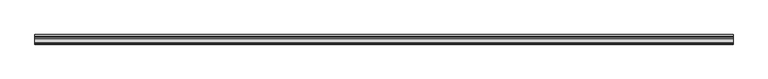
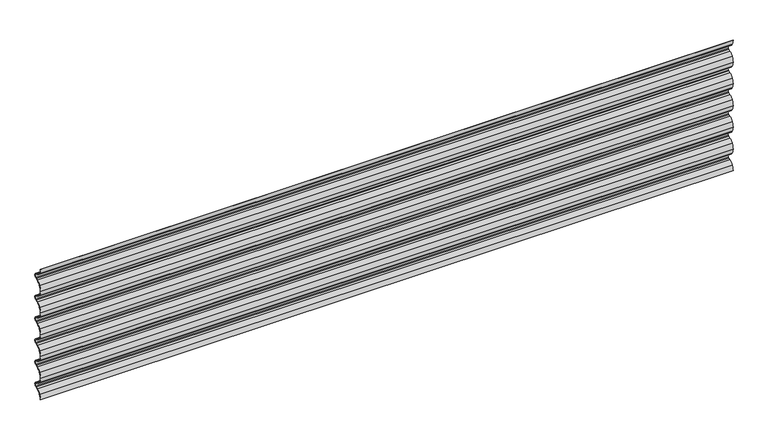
"""IFC4 building model written with IfcOpenShell, lengths in millimetres: plate geometry, Regolare Horizontal 534 : Regolare Horizontal 534."""

from ifc_helpers import new_model, si_unit, point, frame, frame_2d, origin, place, context, project, spatial, polyline, circle_curve, trimmed, segment, composite_curve, outline, extrude, source, transform, mapped, element, save


def plate_cc2e4fbd(model_context):
    return source(origin(), model_context, "Body", "SweptSolid", [
        extrude(outline(composite_curve([segment(trimmed(circle_curve(frame_2d((38.4503244, 0.0)), 37.4503244), [point((6.5021495, 19.5407501))], [point((1.0, 0.0))], True, "CARTESIAN"), True, "CONTINUOUS"), segment(polyline([(1.0, 0.0), (0.0, 0.0)]), True, "CONTINUOUS"), segment(trimmed(circle_curve(frame_2d((38.4503244, 0.0)), 38.4503244), [point((0.0, 0.0))], [point((5.6490681, 20.062528))], False, "CARTESIAN"), True, "CONTINUOUS"), segment(trimmed(circle_curve(frame_2d((32.6206681, 3.5656452)), 31.6166783), [point((5.6490681, 20.062528))], [point((20.878867, 32.9211295))], False, "CARTESIAN"), True, "CONTINUOUS"), segment(polyline([(20.878867, 32.9211295), (28.0423924, 35.7903512), (31.4771017, 37.4367049)]), True, "CONTINUOUS"), segment(trimmed(circle_curve(frame_2d((28.0791236, 44.5257445)), 7.8613445), [point((31.4771017, 37.4367049))], [point((35.9404682, 44.5257445))], True, "CARTESIAN"), True, "CONTINUOUS"), segment(trimmed(circle_curve(frame_2d((28.0791236, 44.5257445)), 7.8613445), [point((35.9404682, 44.5257445))], [point((31.4771017, 51.6147842))], True, "CARTESIAN"), True, "CONTINUOUS"), segment(polyline([(31.4771017, 51.6147842), (28.0423924, 53.2611379), (20.878867, 56.1303596)]), True, "CONTINUOUS"), segment(trimmed(circle_curve(frame_2d((32.6206681, 85.4858438)), 31.6166783), [point((20.878867, 56.1303596))], [point((5.6490681, 68.9889611))], False, "CARTESIAN"), True, "CONTINUOUS"), segment(trimmed(circle_curve(frame_2d((38.4503244, 89.0514891)), 38.4503244), [point((5.6490681, 68.9889611))], [point((0.0, 89.0514891))], False, "CARTESIAN"), True, "CONTINUOUS"), segment(trimmed(circle_curve(frame_2d((38.4503244, 89.0514891)), 38.4503244), [point((0.0, 89.0514891))], [point((5.6490681, 109.1140171))], False, "CARTESIAN"), True, "CONTINUOUS"), segment(trimmed(circle_curve(frame_2d((32.6206681, 92.6171343)), 31.6166783), [point((5.6490681, 109.1140171))], [point((20.878867, 121.9726185))], False, "CARTESIAN"), True, "CONTINUOUS"), segment(polyline([(20.878867, 121.9726185), (28.0423924, 124.8418403), (31.4771017, 126.488194)]), True, "CONTINUOUS"), segment(trimmed(circle_curve(frame_2d((28.0791236, 133.5772336)), 7.8613445), [point((31.4771017, 126.488194))], [point((31.4771017, 140.6662733))], True, "CARTESIAN"), True, "CONTINUOUS"), segment(polyline([(31.4771017, 140.6662733), (28.0423924, 142.312627), (20.878867, 145.1818487)]), True, "CONTINUOUS"), segment(trimmed(circle_curve(frame_2d((32.6206681, 174.5373329)), 31.6166783), [point((20.878867, 145.1818487))], [point((5.6490681, 158.0404502))], False, "CARTESIAN"), True, "CONTINUOUS"), segment(trimmed(circle_curve(frame_2d((38.4503244, 178.1029782)), 38.4503244), [point((5.6490681, 158.0404502))], [point((0.0, 178.1029782))], False, "CARTESIAN"), True, "CONTINUOUS"), segment(trimmed(circle_curve(frame_2d((38.4503244, 178.1029782)), 38.4503244), [point((0.0, 178.1029782))], [point((5.6490681, 198.1655062))], False, "CARTESIAN"), True, "CONTINUOUS"), segment(trimmed(circle_curve(frame_2d((32.6206681, 181.6686234)), 31.6166783), [point((5.6490681, 198.1655062))], [point((20.878867, 211.0241076))], False, "CARTESIAN"), True, "CONTINUOUS"), segment(polyline([(20.878867, 211.0241076), (28.0423924, 213.8933293), (31.4771017, 215.5396831)]), True, "CONTINUOUS"), segment(trimmed(circle_curve(frame_2d((28.0791236, 222.6287227)), 7.8613445), [point((31.4771017, 215.5396831))], [point((31.4771017, 229.7177623))], True, "CARTESIAN"), True, "CONTINUOUS"), segment(polyline([(31.4771017, 229.7177623), (28.0423924, 231.3641161), (20.878867, 234.2333378)]), True, "CONTINUOUS"), segment(trimmed(circle_curve(frame_2d((32.6206681, 263.588822)), 31.6166783), [point((20.878867, 234.2333378))], [point((5.6490681, 247.0919392))], False, "CARTESIAN"), True, "CONTINUOUS"), segment(trimmed(circle_curve(frame_2d((38.4503244, 267.1544672)), 38.4503244), [point((5.6490681, 247.0919392))], [point((0.0, 267.1544672))], False, "CARTESIAN"), True, "CONTINUOUS"), segment(trimmed(circle_curve(frame_2d((38.4503244, 267.1544672)), 38.4503244), [point((0.0, 267.1544672))], [point((5.6490681, 287.2169952))], False, "CARTESIAN"), True, "CONTINUOUS"), segment(trimmed(circle_curve(frame_2d((32.6206681, 270.7201125)), 31.6166783), [point((5.6490681, 287.2169952))], [point((20.878867, 300.0755967))], False, "CARTESIAN"), True, "CONTINUOUS"), segment(polyline([(20.878867, 300.0755967), (28.0423924, 302.9448184), (31.4771017, 304.5911721)]), True, "CONTINUOUS"), segment(trimmed(circle_curve(frame_2d((28.0791236, 311.6802118)), 7.8613445), [point((31.4771017, 304.5911721))], [point((31.4771017, 318.7692514))], True, "CARTESIAN"), True, "CONTINUOUS"), segment(polyline([(31.4771017, 318.7692514), (28.0423924, 320.4156051), (20.878867, 323.2848269)]), True, "CONTINUOUS"), segment(trimmed(circle_curve(frame_2d((32.6206681, 352.6403111)), 31.6166783), [point((20.878867, 323.2848269))], [point((5.6490681, 336.1434283))], False, "CARTESIAN"), True, "CONTINUOUS"), segment(trimmed(circle_curve(frame_2d((38.4503244, 356.2059563)), 38.4503244), [point((5.6490681, 336.1434283))], [point((0.0, 356.2059563))], False, "CARTESIAN"), True, "CONTINUOUS"), segment(trimmed(circle_curve(frame_2d((38.4503244, 356.2059563)), 38.4503244), [point((0.0, 356.2059563))], [point((5.6490681, 376.2684843))], False, "CARTESIAN"), True, "CONTINUOUS"), segment(trimmed(circle_curve(frame_2d((32.6206681, 359.7716016)), 31.6166783), [point((5.6490681, 376.2684843))], [point((20.878867, 389.1270858))], False, "CARTESIAN"), True, "CONTINUOUS"), segment(polyline([(20.878867, 389.1270858), (28.0423924, 391.9963075), (31.4771017, 393.6426612)]), True, "CONTINUOUS"), segment(trimmed(circle_curve(frame_2d((28.0791236, 400.7317009)), 7.8613445), [point((31.4771017, 393.6426612))], [point((31.4771017, 407.8207405))], True, "CARTESIAN"), True, "CONTINUOUS"), segment(polyline([(31.4771017, 407.8207405), (28.0423924, 409.4670942), (20.878867, 412.3363159)]), True, "CONTINUOUS"), segment(trimmed(circle_curve(frame_2d((32.6206681, 441.6918002)), 31.6166783), [point((20.878867, 412.3363159))], [point((5.6490681, 425.1949174))], False, "CARTESIAN"), True, "CONTINUOUS"), segment(trimmed(circle_curve(frame_2d((38.4503244, 445.2574454)), 38.4503244), [point((5.6490681, 425.1949174))], [point((0.0, 445.2574454))], False, "CARTESIAN"), True, "CONTINUOUS"), segment(trimmed(circle_curve(frame_2d((38.4503244, 445.2574454)), 38.4503244), [point((0.0, 445.2574454))], [point((5.6490681, 465.3199734))], False, "CARTESIAN"), True, "CONTINUOUS"), segment(trimmed(circle_curve(frame_2d((32.6206681, 448.8230907)), 31.6166783), [point((5.6490681, 465.3199734))], [point((20.878867, 478.1785749))], False, "CARTESIAN"), True, "CONTINUOUS"), segment(polyline([(20.878867, 478.1785749), (28.0423924, 481.0477966), (31.4771017, 482.6941503)]), True, "CONTINUOUS"), segment(trimmed(circle_curve(frame_2d((28.0791236, 489.7831899)), 7.8613445), [point((31.4771017, 482.6941503))], [point((31.4771017, 496.8722296))], True, "CARTESIAN"), True, "CONTINUOUS"), segment(polyline([(31.4771017, 496.8722296), (28.0423924, 498.5185833), (20.878867, 501.387805)]), True, "CONTINUOUS"), segment(trimmed(circle_curve(frame_2d((32.6206681, 530.7432892)), 31.6166783), [point((20.878867, 501.387805))], [point((5.6490681, 514.2464065))], False, "CARTESIAN"), True, "CONTINUOUS"), segment(trimmed(circle_curve(frame_2d((38.4503244, 534.3089345)), 38.4503244), [point((5.6490681, 514.2464065))], [point((0.0, 534.3089345))], False, "CARTESIAN"), True, "CONTINUOUS"), segment(polyline([(0.0, 534.3089345), (1.0, 534.3089345)]), True, "CONTINUOUS"), segment(trimmed(circle_curve(frame_2d((38.4503244, 534.3089345)), 37.4503244), [point((1.0, 534.3089345))], [point((6.5021495, 514.7681843))], True, "CARTESIAN"), True, "CONTINUOUS"), segment(trimmed(circle_curve(frame_2d((32.6206681, 530.7432892)), 30.6166783), [point((6.5021495, 514.7681843))], [point((21.2504634, 502.3161994))], True, "CARTESIAN"), True, "CONTINUOUS"), segment(polyline([(21.2504634, 502.3161994), (28.4448583, 499.4346135), (31.9093405, 497.7739888)]), True, "CONTINUOUS"), segment(trimmed(circle_curve(frame_2d((28.0791236, 489.7831899)), 8.8613445), [point((31.9093405, 497.7739888))], [point((31.9093405, 481.7923911))], False, "CARTESIAN"), True, "CONTINUOUS"), segment(polyline([(31.9093405, 481.7923911), (28.4448583, 480.1317664), (21.2504634, 477.2501805)]), True, "CONTINUOUS"), segment(trimmed(circle_curve(frame_2d((32.6206681, 448.8230907)), 30.6166783), [point((21.2504634, 477.2501805))], [point((6.5021495, 464.7981955))], True, "CARTESIAN"), True, "CONTINUOUS"), segment(trimmed(circle_curve(frame_2d((38.4503244, 445.2574454)), 37.4503244), [point((6.5021495, 464.7981955))], [point((1.0, 445.2574454))], True, "CARTESIAN"), True, "CONTINUOUS"), segment(trimmed(circle_curve(frame_2d((38.4503244, 445.2574454)), 37.4503244), [point((1.0, 445.2574454))], [point((6.5021495, 425.7166953))], True, "CARTESIAN"), True, "CONTINUOUS"), segment(trimmed(circle_curve(frame_2d((32.6206681, 441.6918002)), 30.6166783), [point((6.5021495, 425.7166953))], [point((21.2504634, 413.2647103))], True, "CARTESIAN"), True, "CONTINUOUS"), segment(polyline([(21.2504634, 413.2647103), (28.4448583, 410.3831244), (31.9093405, 408.7224997)]), True, "CONTINUOUS"), segment(trimmed(circle_curve(frame_2d((28.0791236, 400.7317009)), 8.8613445), [point((31.9093405, 408.7224997))], [point((31.9093405, 392.740902))], False, "CARTESIAN"), True, "CONTINUOUS"), segment(polyline([(31.9093405, 392.740902), (28.4448583, 391.0802773), (21.2504634, 388.1986914)]), True, "CONTINUOUS"), segment(trimmed(circle_curve(frame_2d((32.6206681, 359.7716016)), 30.6166783), [point((21.2504634, 388.1986914))], [point((6.5021495, 375.7467065))], True, "CARTESIAN"), True, "CONTINUOUS"), segment(trimmed(circle_curve(frame_2d((38.4503244, 356.2059563)), 37.4503244), [point((6.5021495, 375.7467065))], [point((1.0, 356.2059563))], True, "CARTESIAN"), True, "CONTINUOUS"), segment(trimmed(circle_curve(frame_2d((38.4503244, 356.2059563)), 37.4503244), [point((1.0, 356.2059563))], [point((6.5021495, 336.6652062))], True, "CARTESIAN"), True, "CONTINUOUS"), segment(trimmed(circle_curve(frame_2d((32.6206681, 352.6403111)), 30.6166783), [point((6.5021495, 336.6652062))], [point((21.2504634, 324.2132212))], True, "CARTESIAN"), True, "CONTINUOUS"), segment(polyline([(21.2504634, 324.2132212), (28.4448583, 321.3316353), (31.9093405, 319.6710106)]), True, "CONTINUOUS"), segment(trimmed(circle_curve(frame_2d((28.0791236, 311.6802118)), 8.8613445), [point((31.9093405, 319.6710106))], [point((31.9093405, 303.689413))], False, "CARTESIAN"), True, "CONTINUOUS"), segment(polyline([(31.9093405, 303.689413), (28.4448583, 302.0287882), (21.2504634, 299.1472023)]), True, "CONTINUOUS"), segment(trimmed(circle_curve(frame_2d((32.6206681, 270.7201125)), 30.6166783), [point((21.2504634, 299.1472023))], [point((6.5021495, 286.6952174))], True, "CARTESIAN"), True, "CONTINUOUS"), segment(trimmed(circle_curve(frame_2d((38.4503244, 267.1544672)), 37.4503244), [point((6.5021495, 286.6952174))], [point((1.0, 267.1544672))], True, "CARTESIAN"), True, "CONTINUOUS"), segment(trimmed(circle_curve(frame_2d((38.4503244, 267.1544672)), 37.4503244), [point((1.0, 267.1544672))], [point((6.5021495, 247.6137171))], True, "CARTESIAN"), True, "CONTINUOUS"), segment(trimmed(circle_curve(frame_2d((32.6206681, 263.588822)), 30.6166783), [point((6.5021495, 247.6137171))], [point((21.2504634, 235.1617322))], True, "CARTESIAN"), True, "CONTINUOUS"), segment(polyline([(21.2504634, 235.1617322), (28.4448583, 232.2801463), (31.9093405, 230.6195215)]), True, "CONTINUOUS"), segment(trimmed(circle_curve(frame_2d((28.0791236, 222.6287227)), 8.8613445), [point((31.9093405, 230.6195215))], [point((31.9093405, 214.6379239))], False, "CARTESIAN"), True, "CONTINUOUS"), segment(polyline([(31.9093405, 214.6379239), (28.4448583, 212.9772992), (21.2504634, 210.0957132)]), True, "CONTINUOUS"), segment(trimmed(circle_curve(frame_2d((32.6206681, 181.6686234)), 30.6166783), [point((21.2504634, 210.0957132))], [point((6.5021495, 197.6437283))], True, "CARTESIAN"), True, "CONTINUOUS"), segment(trimmed(circle_curve(frame_2d((38.4503244, 178.1029782)), 37.4503244), [point((6.5021495, 197.6437283))], [point((1.0, 178.1029782))], True, "CARTESIAN"), True, "CONTINUOUS"), segment(trimmed(circle_curve(frame_2d((38.4503244, 178.1029782)), 37.4503244), [point((1.0, 178.1029782))], [point((6.5021495, 158.562228))], True, "CARTESIAN"), True, "CONTINUOUS"), segment(trimmed(circle_curve(frame_2d((32.6206681, 174.5373329)), 30.6166783), [point((6.5021495, 158.562228))], [point((21.2504634, 146.1102431))], True, "CARTESIAN"), True, "CONTINUOUS"), segment(polyline([(21.2504634, 146.1102431), (28.4448583, 143.2286572), (31.9093405, 141.5680324)]), True, "CONTINUOUS"), segment(trimmed(circle_curve(frame_2d((28.0791236, 133.5772336)), 8.8613445), [point((31.9093405, 141.5680324))], [point((31.9093405, 125.5864348))], False, "CARTESIAN"), True, "CONTINUOUS"), segment(polyline([(31.9093405, 125.5864348), (28.4448583, 123.9258101), (21.2504634, 121.0442242)]), True, "CONTINUOUS"), segment(trimmed(circle_curve(frame_2d((32.6206681, 92.6171343)), 30.6166783), [point((21.2504634, 121.0442242))], [point((6.5021495, 108.5922392))], True, "CARTESIAN"), True, "CONTINUOUS"), segment(trimmed(circle_curve(frame_2d((38.4503244, 89.0514891)), 37.4503244), [point((6.5021495, 108.5922392))], [point((1.0, 89.0514891))], True, "CARTESIAN"), True, "CONTINUOUS"), segment(trimmed(circle_curve(frame_2d((38.4503244, 89.0514891)), 37.4503244), [point((1.0, 89.0514891))], [point((6.5021495, 69.5107389))], True, "CARTESIAN"), True, "CONTINUOUS"), segment(trimmed(circle_curve(frame_2d((32.6206681, 85.4858438)), 30.6166783), [point((6.5021495, 69.5107389))], [point((21.2504634, 57.058754))], True, "CARTESIAN"), True, "CONTINUOUS"), segment(polyline([(21.2504634, 57.058754), (28.4448583, 54.1771681), (31.9093405, 52.5165434)]), True, "CONTINUOUS"), segment(trimmed(circle_curve(frame_2d((28.0791236, 44.5257445)), 8.8613445), [point((31.9093405, 52.5165434))], [point((36.9404682, 44.5257445))], False, "CARTESIAN"), True, "CONTINUOUS"), segment(trimmed(circle_curve(frame_2d((28.0791236, 44.5257445)), 8.8613445), [point((36.9404682, 44.5257445))], [point((31.9093405, 36.5349457))], False, "CARTESIAN"), True, "CONTINUOUS"), segment(polyline([(31.9093405, 36.5349457), (28.4448583, 34.874321), (21.2504634, 31.9927351)]), True, "CONTINUOUS"), segment(trimmed(circle_curve(frame_2d((32.6206681, 3.5656452)), 30.6166783), [point((21.2504634, 31.9927351))], [point((6.5021495, 19.5407501))], True, "CARTESIAN"), True, "CONTINUOUS")], self_intersect=False)), frame((-1340.8345414, 0.0, 0.0), z_axis=(1.0, 0.0, 0.0), x_axis=(0.0, 1.0, 0.0)), (0.0, 0.0, 1.0), 2681.6690827),
    ])


if __name__ == "__main__":
    model = new_model("IFC4")
    model_context = context("Model", 3, world=origin())
    ifc_project = project(units=[si_unit("LENGTHUNIT", "METRE", prefix="MILLI")], contexts=[model_context])
    site = spatial("IfcSite", under=ifc_project)
    building = spatial("IfcBuilding", under=site)
    placement = place(None, origin())
    plate_shape = plate_cc2e4fbd(model_context)
    element("IfcPlate", 1, ObjectType="Regolare Horizontal 534 : Regolare Horizontal 534", at=placement, inside=building, context=model_context, shape_type="MappedRepresentation", body=[
        mapped(plate_shape, transform((0.0, 0.0, 0.0), x_axis=(1.0, 0.0, 0.0), y_axis=(0.0, 1.0, 0.0), z_axis=(0.0, 0.0, 1.0))),
    ])
    save(model, "model.ifc")
